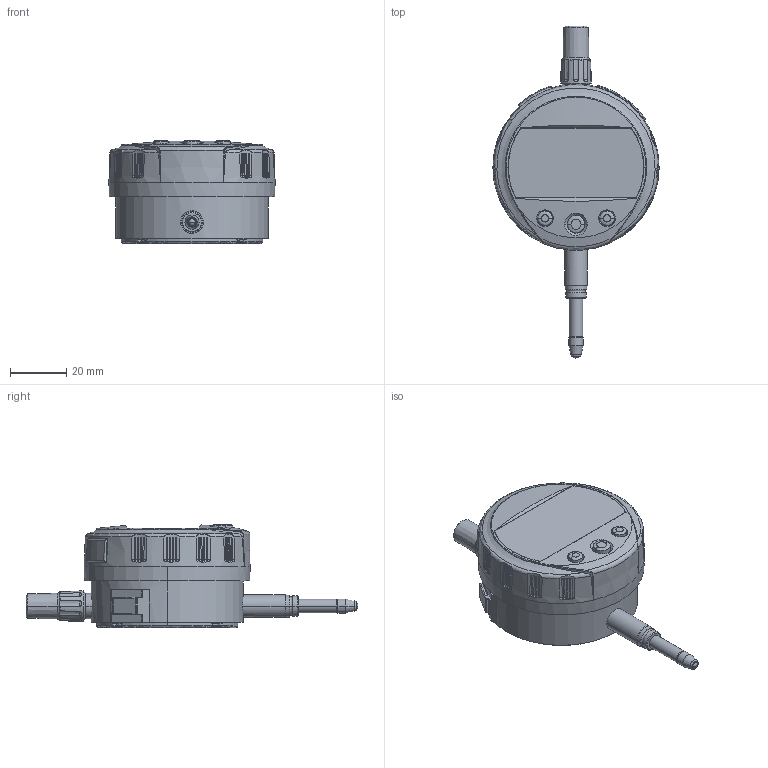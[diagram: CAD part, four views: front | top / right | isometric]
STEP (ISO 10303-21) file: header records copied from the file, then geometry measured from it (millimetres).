
FILE_DESCRIPTION(('Creo Elements/Direct Modeling STEP Export'),'2;1');
FILE_NAME('543-390B_ID-C112XB.stp','2020-04-14T 9:00:37',(''),(''),'Creo Elements/Direct Modeling STEP processor for AP214 (Solid Model)','Creo Elements/Direct Modeling 18.1I 13-Aug-2016 (C) Parametric Technology GmbH','');
FILE_SCHEMA(('AUTOMOTIVE_DESIGN { 1 0 10303 214 1 1 1 1 }'));
Length unit declared in the file: millimetre
Products named in the file (1): Top
Bounding box: 59 x 117.8 x 36.55 mm (x, y, z)
Volume: 90385 mm3; surface area: 14952.4 mm2
Topology: 1 solids, 1 shells, 626 faces, 1734 edges, 1087 vertices
Faces by surface type: cylinder 188, plane 132, cone 108, bspline 97, torus 89, sphere 12
Entity records: 34843 total; most frequent: CARTESIAN_POINT 20453, ORIENTED_EDGE 3372, DIRECTION 2520, EDGE_CURVE 1686, VERTEX_POINT 1087, AXIS2_PLACEMENT_3D 1030, EDGE_LOOP 651, FACE_OUTER_BOUND 626
